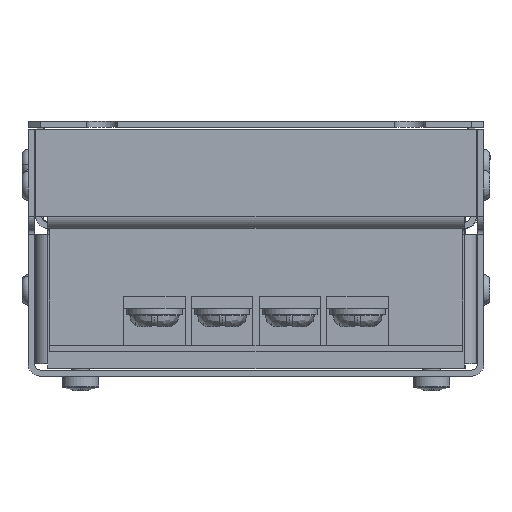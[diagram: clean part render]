
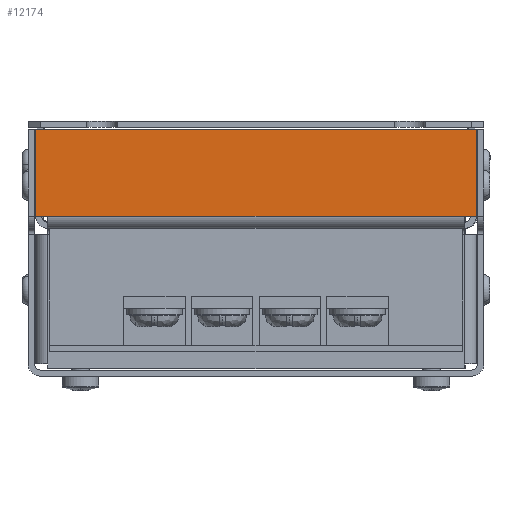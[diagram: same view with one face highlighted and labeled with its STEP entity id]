
A CAD part, front view. The second image highlights one B-rep face of the part: STEP entity #12174.
In plain terms, the highlighted planar face has unit normal (0, -1, 0).
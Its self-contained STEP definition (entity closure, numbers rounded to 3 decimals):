
#286 = VERTEX_POINT ( 'NONE', #5437 ) ;
#449 = EDGE_CURVE ( 'NONE', #9140, #11897, #1736, .T. ) ;
#1242 = ORIENTED_EDGE ( 'NONE', *, *, #6026, .T. ) ;
#1710 = LINE ( 'NONE', #2738, #7737 ) ;
#1736 = LINE ( 'NONE', #4891, #8484 ) ;
#2236 = CARTESIAN_POINT ( 'NONE',  ( 0., -17., 16.199 ) ) ;
#2738 = CARTESIAN_POINT ( 'NONE',  ( -35.8, -17., 16.199 ) ) ;
#2748 = CARTESIAN_POINT ( 'NONE',  ( 35.8, -17., -1. ) ) ;
#2976 = ORIENTED_EDGE ( 'NONE', *, *, #7111, .T. ) ;
#3221 = VERTEX_POINT ( 'NONE', #10615 ) ;
#3702 = EDGE_CURVE ( 'NONE', #12101, #286, #5438, .T. ) ;
#3730 = DIRECTION ( 'NONE',  ( 0., 0., 1. ) ) ;
#4008 = ORIENTED_EDGE ( 'NONE', *, *, #3702, .T. ) ;
#4021 = ORIENTED_EDGE ( 'NONE', *, *, #449, .T. ) ;
#4049 = CARTESIAN_POINT ( 'NONE',  ( -35.8, -17., -15. ) ) ;
#4289 = EDGE_LOOP ( 'NONE', ( #4021, #12018, #1242, #11815, #4008, #2976 ) ) ;
#4639 = CARTESIAN_POINT ( 'NONE',  ( 33.8, -17., -1. ) ) ;
#4891 = CARTESIAN_POINT ( 'NONE',  ( 0., -17., -1. ) ) ;
#5345 = DIRECTION ( 'NONE',  ( -1., 0., 0. ) ) ;
#5437 = CARTESIAN_POINT ( 'NONE',  ( 35.8, -17., -15. ) ) ;
#5438 = LINE ( 'NONE', #9642, #11140 ) ;
#5627 = DIRECTION ( 'NONE',  ( 1., 0., 0. ) ) ;
#5886 = CARTESIAN_POINT ( 'NONE',  ( 35.8, -17., 16.199 ) ) ;
#6026 = EDGE_CURVE ( 'NONE', #3221, #7919, #8603, .T. ) ;
#6098 = EDGE_CURVE ( 'NONE', #7919, #12101, #1710, .T. ) ;
#6107 = DIRECTION ( 'NONE',  ( 1., 0., 0. ) ) ;
#6421 = CARTESIAN_POINT ( 'NONE',  ( 0., -17., -1. ) ) ;
#6592 = PLANE ( 'NONE',  #12929 ) ;
#7111 = EDGE_CURVE ( 'NONE', #286, #9140, #12141, .T. ) ;
#7154 = VECTOR ( 'NONE', #5345, 1000. ) ;
#7237 = VECTOR ( 'NONE', #3730, 1000. ) ;
#7737 = VECTOR ( 'NONE', #12941, 1000. ) ;
#7919 = VERTEX_POINT ( 'NONE', #11232 ) ;
#8484 = VECTOR ( 'NONE', #8828, 1000. ) ;
#8603 = LINE ( 'NONE', #6421, #7154 ) ;
#8810 = VECTOR ( 'NONE', #6107, 1000. ) ;
#8822 = EDGE_CURVE ( 'NONE', #3221, #11897, #12219, .T. ) ;
#8828 = DIRECTION ( 'NONE',  ( -1., 0., 0. ) ) ;
#9140 = VERTEX_POINT ( 'NONE', #2748 ) ;
#9642 = CARTESIAN_POINT ( 'NONE',  ( 0., -17., -15. ) ) ;
#10539 = FACE_OUTER_BOUND ( 'NONE', #4289, .T. ) ;
#10615 = CARTESIAN_POINT ( 'NONE',  ( -33.8, -17., -1. ) ) ;
#10731 = DIRECTION ( 'NONE',  ( 0., -1., 0. ) ) ;
#11140 = VECTOR ( 'NONE', #5627, 1000. ) ;
#11232 = CARTESIAN_POINT ( 'NONE',  ( -35.8, -17., -1. ) ) ;
#11273 = CARTESIAN_POINT ( 'NONE',  ( 35.8, -17., -1. ) ) ;
#11815 = ORIENTED_EDGE ( 'NONE', *, *, #6098, .T. ) ;
#11897 = VERTEX_POINT ( 'NONE', #4639 ) ;
#12018 = ORIENTED_EDGE ( 'NONE', *, *, #8822, .F. ) ;
#12101 = VERTEX_POINT ( 'NONE', #4049 ) ;
#12141 = LINE ( 'NONE', #5886, #7237 ) ;
#12174 = ADVANCED_FACE ( 'NONE', ( #10539 ), #6592, .T. ) ;
#12219 = LINE ( 'NONE', #11273, #8810 ) ;
#12655 = DIRECTION ( 'NONE',  ( 0., 0., -1. ) ) ;
#12929 = AXIS2_PLACEMENT_3D ( 'NONE', #2236, #10731, #12655 ) ;
#12941 = DIRECTION ( 'NONE',  ( 0., 0., -1. ) ) ;
